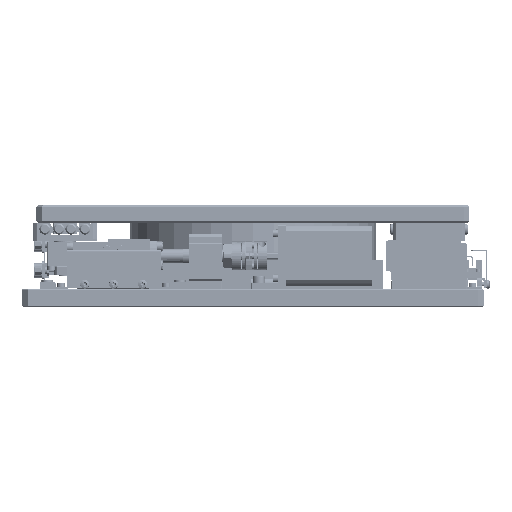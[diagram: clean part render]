
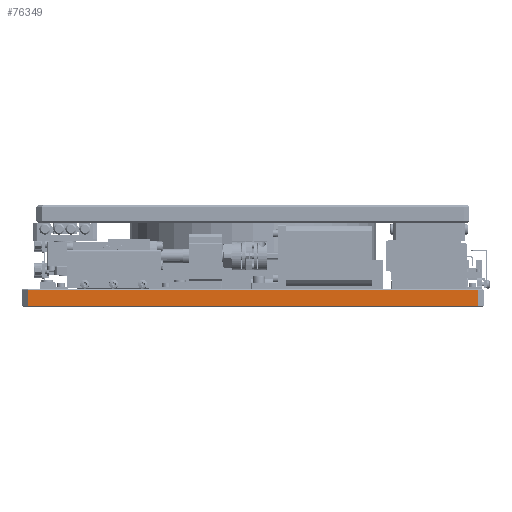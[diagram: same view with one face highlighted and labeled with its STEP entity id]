
A CAD part, left-side view. The second image highlights one B-rep face of the part: STEP entity #76349.
In plain terms, the highlighted planar face has unit normal (-1, 0, 0).
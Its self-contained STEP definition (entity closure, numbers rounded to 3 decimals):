
#2758 = CARTESIAN_POINT ( 'NONE',  ( -160., -156., -58.5 ) ) ;
#4282 = ORIENTED_EDGE ( 'NONE', *, *, #15448, .F. ) ;
#15448 = EDGE_CURVE ( 'NONE', #70984, #117289, #73850, .T. ) ;
#16271 = VECTOR ( 'NONE', #60759, 1000. ) ;
#22563 = CARTESIAN_POINT ( 'NONE',  ( -160., -160., -58. ) ) ;
#22894 = VECTOR ( 'NONE', #27300, 1000. ) ;
#24188 = ORIENTED_EDGE ( 'NONE', *, *, #33738, .T. ) ;
#27300 = DIRECTION ( 'NONE',  ( 0., -1., 0. ) ) ;
#29506 = EDGE_CURVE ( 'NONE', #106335, #66586, #109225, .T. ) ;
#33738 = EDGE_CURVE ( 'NONE', #106335, #117289, #135270, .T. ) ;
#35902 = ORIENTED_EDGE ( 'NONE', *, *, #38102, .T. ) ;
#37425 = FACE_OUTER_BOUND ( 'NONE', #46510, .T. ) ;
#38102 = EDGE_CURVE ( 'NONE', #70984, #66586, #77378, .T. ) ;
#41353 = CARTESIAN_POINT ( 'NONE',  ( -160., -156., -58. ) ) ;
#46510 = EDGE_LOOP ( 'NONE', ( #4282, #35902, #74232, #24188 ) ) ;
#55223 = DIRECTION ( 'NONE',  ( 1., 0., 0. ) ) ;
#59931 = CARTESIAN_POINT ( 'NONE',  ( -160., -160., -58.5 ) ) ;
#60348 = CARTESIAN_POINT ( 'NONE',  ( -160., 156., -69.5 ) ) ;
#60759 = DIRECTION ( 'NONE',  ( 0., 1., 0. ) ) ;
#65637 = PLANE ( 'NONE',  #93691 ) ;
#66586 = VERTEX_POINT ( 'NONE', #2758 ) ;
#70984 = VERTEX_POINT ( 'NONE', #112227 ) ;
#71664 = CARTESIAN_POINT ( 'NONE',  ( -160., -160., -69.5 ) ) ;
#73850 = LINE ( 'NONE', #71664, #16271 ) ;
#73986 = DIRECTION ( 'NONE',  ( 0., 0., 1. ) ) ;
#74232 = ORIENTED_EDGE ( 'NONE', *, *, #29506, .F. ) ;
#76349 = ADVANCED_FACE ( 'NONE', ( #37425 ), #65637, .F. ) ;
#77378 = LINE ( 'NONE', #41353, #99291 ) ;
#90874 = CARTESIAN_POINT ( 'NONE',  ( -160., 156., -58. ) ) ;
#93691 = AXIS2_PLACEMENT_3D ( 'NONE', #22563, #55223, #130824 ) ;
#99291 = VECTOR ( 'NONE', #73986, 1000. ) ;
#99712 = VECTOR ( 'NONE', #112614, 1000. ) ;
#106335 = VERTEX_POINT ( 'NONE', #108698 ) ;
#108698 = CARTESIAN_POINT ( 'NONE',  ( -160., 156., -58.5 ) ) ;
#109225 = LINE ( 'NONE', #59931, #22894 ) ;
#112227 = CARTESIAN_POINT ( 'NONE',  ( -160., -156., -69.5 ) ) ;
#112614 = DIRECTION ( 'NONE',  ( 0., 0., -1. ) ) ;
#117289 = VERTEX_POINT ( 'NONE', #60348 ) ;
#130824 = DIRECTION ( 'NONE',  ( 0., 1., 0. ) ) ;
#135270 = LINE ( 'NONE', #90874, #99712 ) ;
